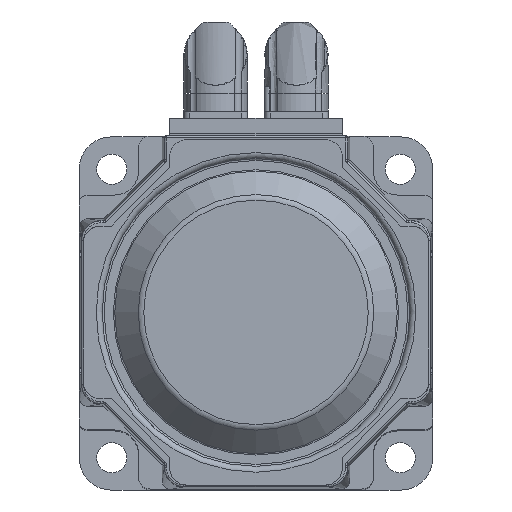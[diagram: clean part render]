
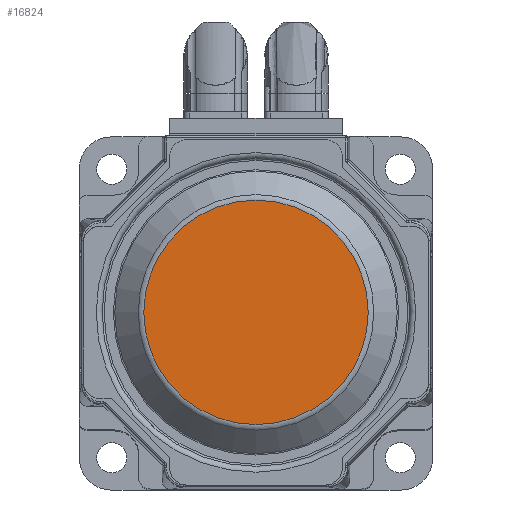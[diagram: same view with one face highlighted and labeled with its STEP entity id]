
A CAD part, top view. The second image highlights one B-rep face of the part: STEP entity #16824.
In plain terms, the highlighted planar face has unit normal (0, 0, 1).
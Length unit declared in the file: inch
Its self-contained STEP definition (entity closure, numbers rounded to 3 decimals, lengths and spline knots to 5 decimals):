
#16804=CARTESIAN_POINT('',(0.0,1.78622,1.69));
#16805=VERTEX_POINT('',#16804);
#16806=CARTESIAN_POINT('',(0.0,0.0,1.69));
#16807=DIRECTION('',(0.0,0.0,-1.0));
#16808=DIRECTION('',(0.0,1.0,0.0));
#16809=AXIS2_PLACEMENT_3D('',#16806,#16807,#16808);
#16810=CIRCLE('',#16809,1.78622);
#16811=EDGE_CURVE('',#16805,#16805,#16810,.T.);
#16816=CARTESIAN_POINT('',(0.0,0.89311,1.69));
#16817=DIRECTION('',(0.0,0.0,1.0));
#16818=DIRECTION('',(1.0,0.0,0.0));
#16819=AXIS2_PLACEMENT_3D('',#16816,#16817,#16818);
#16820=PLANE('',#16819);
#16821=ORIENTED_EDGE('',*,*,#16811,.F.);
#16822=EDGE_LOOP('',(#16821));
#16823=FACE_OUTER_BOUND('',#16822,.T.);
#16824=ADVANCED_FACE('',(#16823),#16820,.T.);
